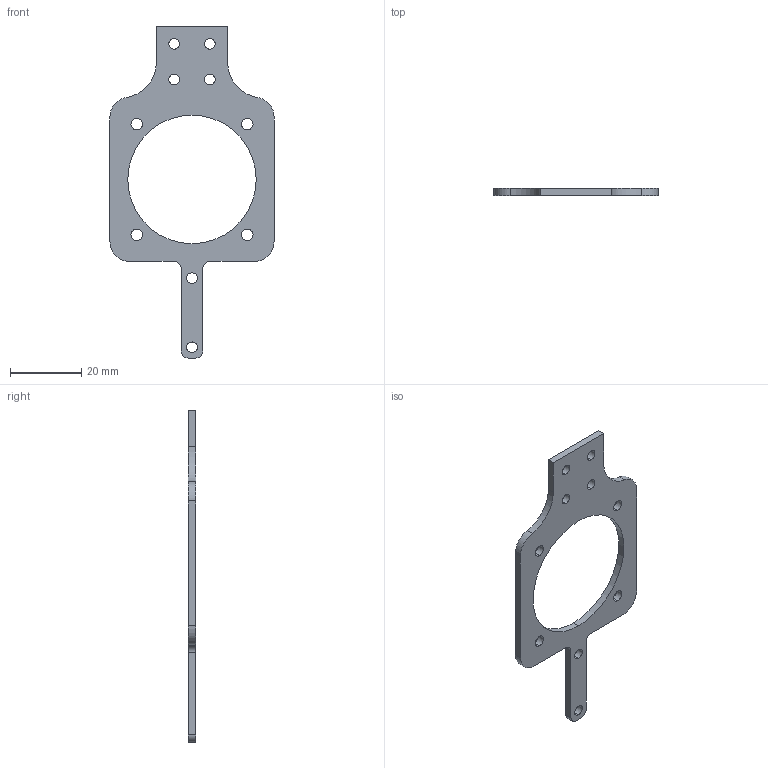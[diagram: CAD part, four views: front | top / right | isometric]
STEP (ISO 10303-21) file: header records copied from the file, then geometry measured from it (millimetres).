
FILE_DESCRIPTION (( 'STEP AP203' ), '1' );
FILE_NAME ('µç»ú2¹Ì¶¨.STEP', '2025-08-22T12:48:17', ( '' ), ( '' ), 'SwSTEP 2.0', 'SolidWorks 2025', '' );
FILE_SCHEMA (( 'CONFIG_CONTROL_DESIGN' ));
Length unit declared in the file: millimetre
Products named in the file (1): 电机2固定
Bounding box: 46 x 2 x 93.05 mm (x, y, z)
Volume: 3198.6 mm3; surface area: 4132.4 mm2
Topology: 1 solids, 1 shells, 44 faces, 126 edges, 84 vertices
Faces by surface type: cylinder 32, plane 12
Entity records: 1595 total; most frequent: DIRECTION 280, CARTESIAN_POINT 255, ORIENTED_EDGE 252, EDGE_CURVE 126, AXIS2_PLACEMENT_3D 109, VERTEX_POINT 84, EDGE_LOOP 66, CIRCLE 64
